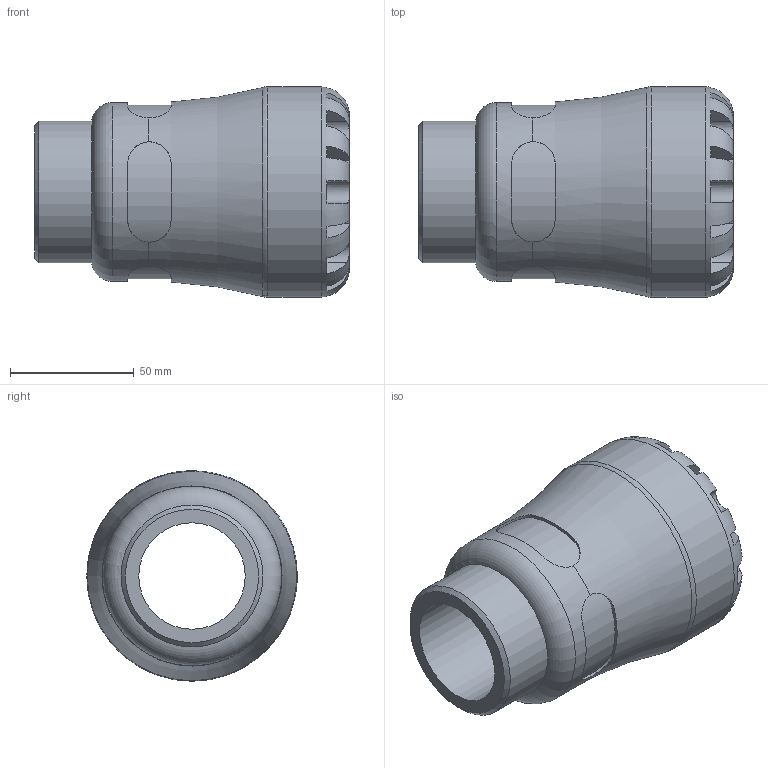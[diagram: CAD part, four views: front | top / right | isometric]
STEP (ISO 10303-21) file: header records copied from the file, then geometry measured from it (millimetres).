
FILE_DESCRIPTION(/* description */ ('PLASSON MALE INTEGRAL BRASS THREAD 50X2" SERIES 1'),/* implementation_level */ '2;1');
FILE_NAME(/* name */ 'C:\Dropbox\KIMPROJECTS-Inventor\99-16-3568-Processing\1072\107200050020_197200050020.ipt.stp',/* time_stamp */ '2017-01-22T10:49:11+02:00',/* author */ ('KIM'),/* organization */ (''),/* preprocessor_version */ 'ST-DEVELOPER v15.6',/* originating_system */ 'Autodesk Inventor 2015',/* authorisation */ '');
FILE_SCHEMA (('AUTOMOTIVE_DESIGN { 1 0 10303 214 3 1 1 }'));
Length unit declared in the file: millimetre
Products named in the file (1): 107200050020_197200050020
Bounding box: 127 x 85 x 85 mm (x, y, z)
Volume: 317248.6 mm3; surface area: 56089.6 mm2
Topology: 1 solids, 1 shells, 98 faces, 255 edges, 160 vertices
Faces by surface type: plane 59, cylinder 33, torus 4, cone 2
Full cylindrical faces by diameter (mm): 43.01 x1, 50 x1, 57.296 x1, 72.25 x1, 85 x1
Entity records: 3826 total; most frequent: CARTESIAN_POINT 1443, ORIENTED_EDGE 480, DIRECTION 454, EDGE_CURVE 240, AXIS2_PLACEMENT_3D 187, VERTEX_POINT 156, EDGE_LOOP 112, STYLED_ITEM 99
